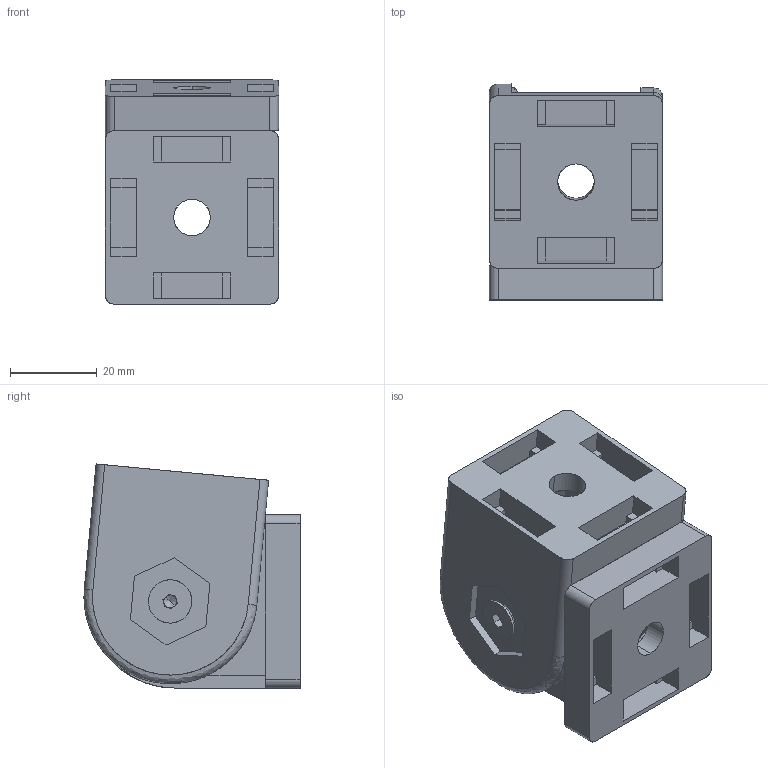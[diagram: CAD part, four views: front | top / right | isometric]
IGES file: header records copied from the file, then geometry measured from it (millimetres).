
Start section: SolidWorks IGES file using analytic representation for surfaces
Global section: file name: D:\LETROMEC CATALOGUE\SWIVEL JOINT\CP-SJ40X40\CP-SJ40X40.IGS; native system: SolidWorks 2013; preprocessor: SolidWorks 2013; author: User; date: 180316.203245; units: millimetre
Bounding box: 40 x 49.91 x 51.75 mm (x, y, z)
Surface area: 24307 mm2 (no closed solid volume)
Topology: 0 solids, 0 shells, 206 faces, 1836 edges, 1832 vertices
Faces by surface type: bspline 156, revolution 50
